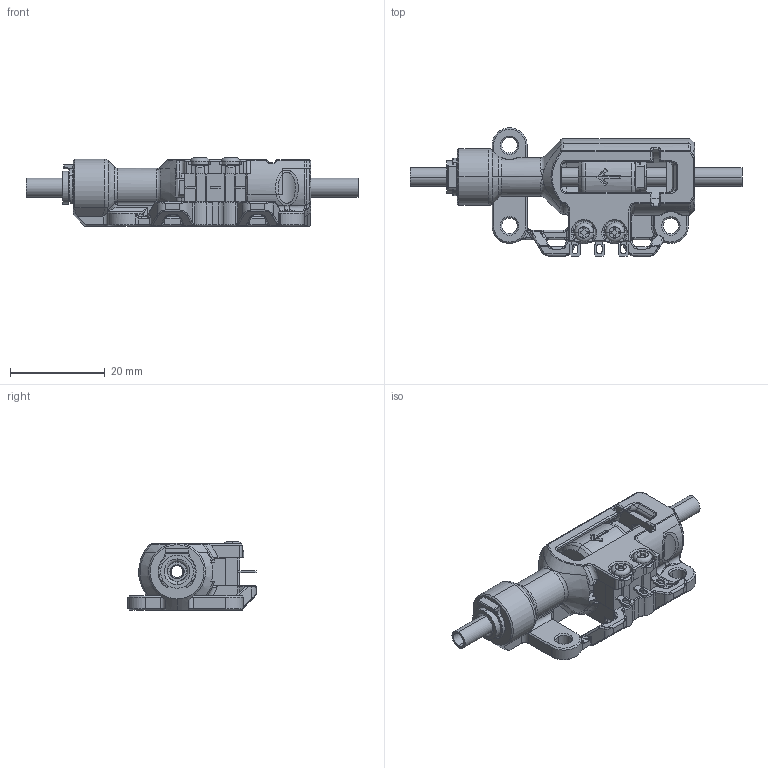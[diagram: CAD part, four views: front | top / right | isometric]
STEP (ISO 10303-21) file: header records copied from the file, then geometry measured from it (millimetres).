
FILE_DESCRIPTION (( 'STEP AP214' ), '1' );
FILE_NAME ('Belay_5mm_Collet.STEP', '2024-01-15T09:31:07', ( '' ), ( '' ), 'SwSTEP 2.0', 'SolidWorks 2022', '' );
FILE_SCHEMA (( 'AUTOMOTIVE_DESIGN' ));
Length unit declared in the file: millimetre
Products named in the file (13): Omron D2F Body; Omron D2F Plunger; Bowden Tube - Inlet^Extruder Sync Sensor; Collet Mockup_5mm; Bowden Tube - Outlet^Extruder Sync Sensor; Collet Clip Mockup_5mm; Sensor Housing^Extruder Sync Sensor; Cover^Extruder Sync Sensor; pan head tapping screw_am_PHT 2x13x12.2-type I-D-N; Omron D2F Mockup_D2F-L-D3 (Operating Position); Slider^Extruder Sync Sensor; Belay_5mm_Collet; Omron D2F Lever
Assembly tree (15 placements, depth 3):
  Belay_5mm_Collet
    Omron D2F Mockup_D2F-L-D3 (Operating Position)
      Omron D2F Body
      Omron D2F Plunger
      Omron D2F Lever
    Slider^Extruder Sync Sensor
    Sensor Housing^Extruder Sync Sensor
    Cover^Extruder Sync Sensor
    Bowden Tube - Inlet^Extruder Sync Sensor
    Bowden Tube - Outlet^Extruder Sync Sensor
    pan head tapping screw_am_PHT 2x13x12.2-type I-D-N  x2
    Collet Clip Mockup_5mm  x2
    Collet Mockup_5mm  x2
Bounding box: 70 x 27.1 x 14.4 mm (x, y, z)
Volume: 7861.1 mm3; surface area: 9266.2 mm2
Topology: 17 solids, 17 shells, 1593 faces, 3971 edges, 2349 vertices
Faces by surface type: plane 490, cylinder 427, bspline 281, torus 194, cone 193, sphere 8
Entity records: 51348 total; most frequent: CARTESIAN_POINT 19370, ORIENTED_EDGE 6956, DIRECTION 6168, EDGE_CURVE 3478, AXIS2_PLACEMENT_3D 2357, VERTEX_POINT 2086, EDGE_LOOP 1466, LINE 1454
